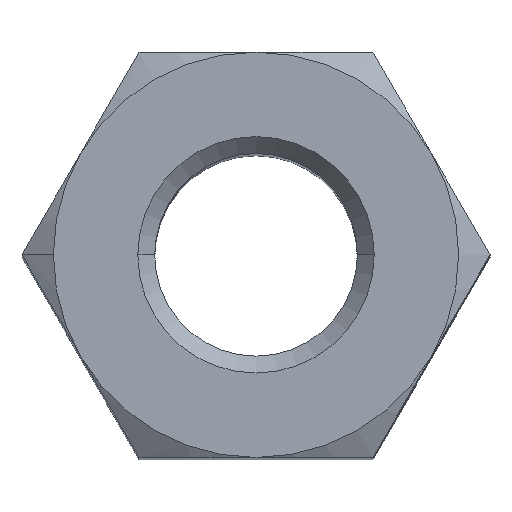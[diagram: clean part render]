
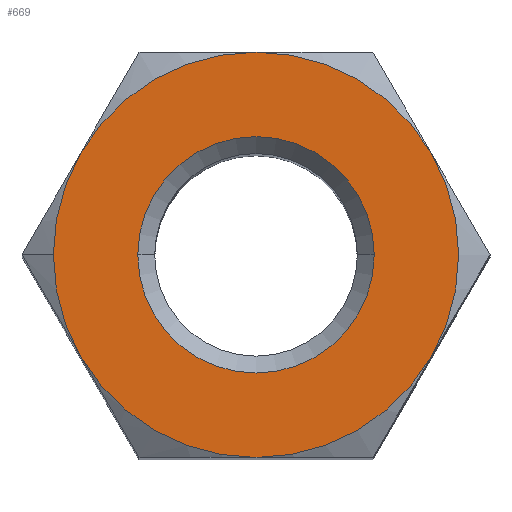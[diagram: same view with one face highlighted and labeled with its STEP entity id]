
A CAD part, top view. The second image highlights one B-rep face of the part: STEP entity #669.
In plain terms, the highlighted planar face has unit normal (0, 0, 1).
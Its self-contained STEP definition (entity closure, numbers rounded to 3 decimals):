
#16 = DIRECTION ( 'NONE',  ( 0., 0., -1. ) ) ;
#36 = CARTESIAN_POINT ( 'NONE',  ( -2.598, 1.5, 10. ) ) ;
#45 = CIRCLE ( 'NONE', #62, 3. ) ;
#59 = VERTEX_POINT ( 'NONE', #618 ) ;
#62 = AXIS2_PLACEMENT_3D ( 'NONE', #406, #202, #871 ) ;
#64 = CARTESIAN_POINT ( 'NONE',  ( 1.75, 0., 10. ) ) ;
#65 = ORIENTED_EDGE ( 'NONE', *, *, #83, .T. ) ;
#83 = EDGE_CURVE ( 'NONE', #112, #607, #126, .T. ) ;
#88 = CIRCLE ( 'NONE', #128, 3. ) ;
#100 = DIRECTION ( 'NONE',  ( 0., 0., 1. ) ) ;
#104 = DIRECTION ( 'NONE',  ( -1., 0., 0. ) ) ;
#107 = ORIENTED_EDGE ( 'NONE', *, *, #228, .T. ) ;
#109 = CARTESIAN_POINT ( 'NONE',  ( 0., 0., 10. ) ) ;
#112 = VERTEX_POINT ( 'NONE', #683 ) ;
#121 = CARTESIAN_POINT ( 'NONE',  ( 0., -3., 10. ) ) ;
#126 = CIRCLE ( 'NONE', #396, 3. ) ;
#127 = DIRECTION ( 'NONE',  ( -1., 0., 0. ) ) ;
#128 = AXIS2_PLACEMENT_3D ( 'NONE', #109, #432, #693 ) ;
#142 = AXIS2_PLACEMENT_3D ( 'NONE', #362, #100, #302 ) ;
#143 = DIRECTION ( 'NONE',  ( -1., 0., 0. ) ) ;
#179 = AXIS2_PLACEMENT_3D ( 'NONE', #637, #442, #104 ) ;
#180 = AXIS2_PLACEMENT_3D ( 'NONE', #613, #16, #827 ) ;
#188 = CARTESIAN_POINT ( 'NONE',  ( 0., 0., 10. ) ) ;
#194 = VERTEX_POINT ( 'NONE', #36 ) ;
#197 = DIRECTION ( 'NONE',  ( 0., 0., 1. ) ) ;
#202 = DIRECTION ( 'NONE',  ( 0., 0., 1. ) ) ;
#228 = EDGE_CURVE ( 'NONE', #769, #529, #699, .T. ) ;
#230 = PLANE ( 'NONE',  #561 ) ;
#255 = ORIENTED_EDGE ( 'NONE', *, *, #424, .T. ) ;
#274 = AXIS2_PLACEMENT_3D ( 'NONE', #764, #849, #497 ) ;
#280 = CARTESIAN_POINT ( 'NONE',  ( -2.598, -1.5, 10. ) ) ;
#288 = CARTESIAN_POINT ( 'NONE',  ( 0., 0., 10. ) ) ;
#302 = DIRECTION ( 'NONE',  ( -1., 0., 0. ) ) ;
#306 = DIRECTION ( 'NONE',  ( 1., 0., 0. ) ) ;
#316 = DIRECTION ( 'NONE',  ( 0., 0., -1. ) ) ;
#326 = CARTESIAN_POINT ( 'NONE',  ( 0., 0., 10. ) ) ;
#362 = CARTESIAN_POINT ( 'NONE',  ( 0., 0., 10. ) ) ;
#382 = CIRCLE ( 'NONE', #857, 1.75 ) ;
#385 = EDGE_CURVE ( 'NONE', #785, #112, #700, .T. ) ;
#396 = AXIS2_PLACEMENT_3D ( 'NONE', #288, #691, #143 ) ;
#399 = ORIENTED_EDGE ( 'NONE', *, *, #737, .T. ) ;
#403 = VERTEX_POINT ( 'NONE', #64 ) ;
#406 = CARTESIAN_POINT ( 'NONE',  ( 0., 0., 10. ) ) ;
#414 = CIRCLE ( 'NONE', #142, 3. ) ;
#424 = EDGE_CURVE ( 'NONE', #529, #785, #45, .T. ) ;
#432 = DIRECTION ( 'NONE',  ( 0., 0., -1. ) ) ;
#435 = FACE_OUTER_BOUND ( 'NONE', #701, .T. ) ;
#442 = DIRECTION ( 'NONE',  ( 0., 0., 1. ) ) ;
#497 = DIRECTION ( 'NONE',  ( -1., 0., 0. ) ) ;
#499 = FACE_BOUND ( 'NONE', #511, .T. ) ;
#511 = EDGE_LOOP ( 'NONE', ( #568, #515 ) ) ;
#515 = ORIENTED_EDGE ( 'NONE', *, *, #610, .T. ) ;
#522 = DIRECTION ( 'NONE',  ( 0., 0., -1. ) ) ;
#528 = ORIENTED_EDGE ( 'NONE', *, *, #722, .T. ) ;
#529 = VERTEX_POINT ( 'NONE', #280 ) ;
#530 = CARTESIAN_POINT ( 'NONE',  ( -3., 0., 10. ) ) ;
#535 = ORIENTED_EDGE ( 'NONE', *, *, #643, .F. ) ;
#544 = CARTESIAN_POINT ( 'NONE',  ( 2.598, 1.5, 10. ) ) ;
#549 = CIRCLE ( 'NONE', #180, 1.75 ) ;
#561 = AXIS2_PLACEMENT_3D ( 'NONE', #707, #316, #306 ) ;
#568 = ORIENTED_EDGE ( 'NONE', *, *, #806, .T. ) ;
#582 = ORIENTED_EDGE ( 'NONE', *, *, #385, .T. ) ;
#590 = DIRECTION ( 'NONE',  ( -1., 0., 0. ) ) ;
#591 = AXIS2_PLACEMENT_3D ( 'NONE', #326, #197, #590 ) ;
#607 = VERTEX_POINT ( 'NONE', #544 ) ;
#610 = EDGE_CURVE ( 'NONE', #59, #403, #549, .T. ) ;
#613 = CARTESIAN_POINT ( 'NONE',  ( 0., 0., 10. ) ) ;
#618 = CARTESIAN_POINT ( 'NONE',  ( -1.75, 0., 10. ) ) ;
#637 = CARTESIAN_POINT ( 'NONE',  ( 0., 0., 10. ) ) ;
#643 = EDGE_CURVE ( 'NONE', #194, #665, #88, .T. ) ;
#665 = VERTEX_POINT ( 'NONE', #846 ) ;
#669 = ADVANCED_FACE ( 'NONE', ( #499, #435 ), #230, .F. ) ;
#683 = CARTESIAN_POINT ( 'NONE',  ( 2.598, -1.5, 10. ) ) ;
#689 = CIRCLE ( 'NONE', #274, 3. ) ;
#691 = DIRECTION ( 'NONE',  ( 0., 0., 1. ) ) ;
#693 = DIRECTION ( 'NONE',  ( -1., 0., 0. ) ) ;
#699 = CIRCLE ( 'NONE', #179, 3. ) ;
#700 = CIRCLE ( 'NONE', #591, 3. ) ;
#701 = EDGE_LOOP ( 'NONE', ( #399, #107, #255, #582, #65, #528, #535 ) ) ;
#707 = CARTESIAN_POINT ( 'NONE',  ( 0., 0., 10. ) ) ;
#722 = EDGE_CURVE ( 'NONE', #607, #665, #414, .T. ) ;
#737 = EDGE_CURVE ( 'NONE', #194, #769, #689, .T. ) ;
#764 = CARTESIAN_POINT ( 'NONE',  ( 0., 0., 10. ) ) ;
#769 = VERTEX_POINT ( 'NONE', #530 ) ;
#785 = VERTEX_POINT ( 'NONE', #121 ) ;
#806 = EDGE_CURVE ( 'NONE', #403, #59, #382, .T. ) ;
#827 = DIRECTION ( 'NONE',  ( -1., 0., 0. ) ) ;
#846 = CARTESIAN_POINT ( 'NONE',  ( 0., 3., 10. ) ) ;
#849 = DIRECTION ( 'NONE',  ( 0., 0., 1. ) ) ;
#857 = AXIS2_PLACEMENT_3D ( 'NONE', #188, #522, #127 ) ;
#871 = DIRECTION ( 'NONE',  ( -1., 0., 0. ) ) ;
